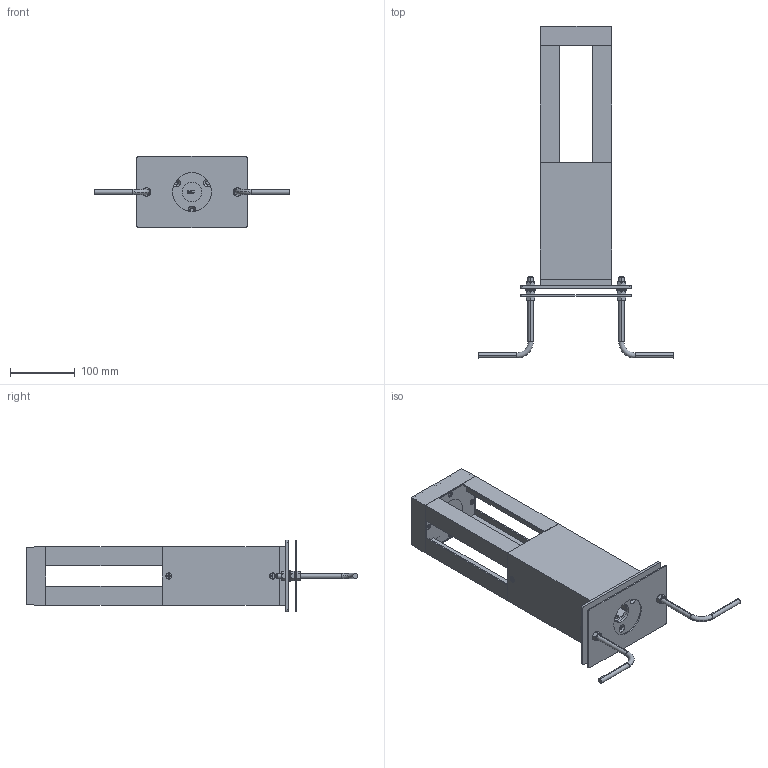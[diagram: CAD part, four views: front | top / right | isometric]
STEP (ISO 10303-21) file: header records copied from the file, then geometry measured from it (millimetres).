
FILE_DESCRIPTION((''),'2;1');
FILE_NAME('9AU-400_ASM','2024-09-02T',('Administrator'),(''),'CREO PARAMETRIC BY PTC INC, 2014500','CREO PARAMETRIC BY PTC INC, 2014500','');
FILE_SCHEMA(('CONFIG_CONTROL_DESIGN'));
Length unit declared in the file: millimetre
Products named in the file (30): 9AU________W________ANY_ANY; 9AU________W_400_ANY-52664_ANY; 9AU________W_400_ANY-29064_ASM__ASM; 9AU__O_Y__________M4_105_ANY_AN; 9AU__O_Y__________ANY_ANY; 9AU______Q_U_ANY_ANY; 9AU__O_Y_ANY-4840_ANY; 9AU__________ANY_ANY; M3LUOZHU_1_ANY; YAQUAN_ANY; B51LENS_ANY; GYZHIJIA_ANY; GY_ANY; GYZHUJIAN_ASM_ANY_ASM; 9AU__O_Y_____PC_ANY_ANY; 9AU__O_Y___________________ANY_; 9AU__O_Y_ANY-28947_ASM_ANY_ASM; 9AU__U_O_W____Y_____L___ANY_1_A; 9AU__U_O_W____Y________L_ANY_AN; 9AU__U_O_W____Y_____L______U_AN; 9AU__U_O_W____Y_____L______U___; 9AU__U_O_W____L_ANY_ANY; ___X__445_9AU__U_O_W____Y-75681_ASM; 9AU-JICHUZUO_ASM; 9AU__U_O_W__W___ANY_ANY; 9AU__U_O_W____Y_ANY_ANY; 9AU__U_O_W_M5_91_ANY_ANY; 9AU__U_O_W_400_ANY-47552_ANY; 9AU__U_O_W_400_ANY-28237_ASM_AN_ASM; 9AU-400_ASM
Assembly tree (51 placements, depth 4):
  9AU-400_ASM
    9AU________W_400_ANY-29064_ASM__ASM  x4
      9AU________W________ANY_ANY
      9AU________W_400_ANY-52664_ANY
    9AU__O_Y_ANY-28947_ASM_ANY_ASM
      9AU__O_Y__________M4_105_ANY_AN  x8
      9AU__O_Y__________ANY_ANY
      9AU______Q_U_ANY_ANY
      9AU__O_Y_ANY-4840_ANY
      9AU__________ANY_ANY
      GYZHUJIAN_ASM_ANY_ASM
        M3LUOZHU_1_ANY  x2
        YAQUAN_ANY
        B51LENS_ANY
        GYZHIJIA_ANY
        GY_ANY
      9AU__O_Y_____PC_ANY_ANY
      9AU__O_Y___________________ANY_
    9AU-JICHUZUO_ASM
      9AU__U_O_W____Y_____L___ANY_1_A
      9AU__U_O_W____Y________L_ANY_AN
      9AU__U_O_W____Y_____L______U_AN  x3
      9AU__U_O_W____Y_____L______U___
      9AU__U_O_W____L_ANY_ANY
      ___X__445_9AU__U_O_W____Y-75681_ASM
        9AU__U_O_W____Y_____L___ANY_1_A
        9AU__U_O_W____Y_____L______U_AN  x3
        9AU__U_O_W____Y_____L______U___
    9AU__U_O_W_400_ANY-28237_ASM_AN_ASM
      9AU__U_O_W__W___ANY_ANY
      9AU__U_O_W____Y_ANY_ANY
      9AU__U_O_W_M5_91_ANY_ANY  x4
      9AU__U_O_W_400_ANY-47552_ANY
Bounding box: 302 x 511.55 x 110 mm (x, y, z)
Volume: 849404.5 mm3; surface area: 606840.8 mm2
Topology: 51 solids, 51 shells, 2308 faces, 6141 edges, 4030 vertices
Faces by surface type: plane 1494, cylinder 500, cone 231, bspline 36, torus 36, sphere 8, extrusion 3
Entity records: 57799 total; most frequent: CARTESIAN_POINT 17209, ORIENTED_EDGE 8468, DIRECTION 8018, EDGE_CURVE 4234, VECTOR 3286, LINE 3283, VERTEX_POINT 2804, AXIS2_PLACEMENT_3D 2366
